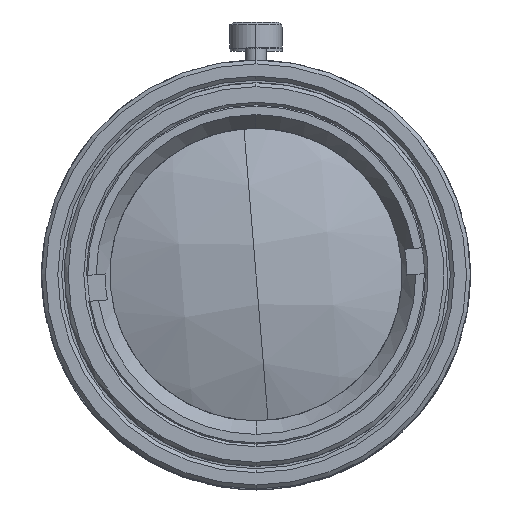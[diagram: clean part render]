
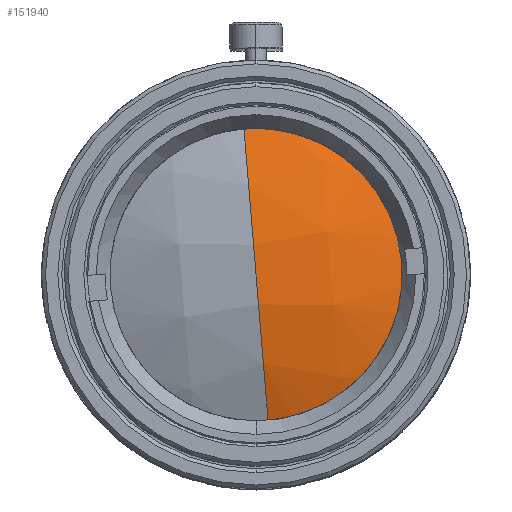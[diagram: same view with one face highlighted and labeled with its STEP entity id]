
A CAD part, top view. The second image highlights one B-rep face of the part: STEP entity #151940.
In plain terms, the highlighted spherical face has radius 29.237 mm.
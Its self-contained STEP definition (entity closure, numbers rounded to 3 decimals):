
#62670=CARTESIAN_POINT('',(11.212,-0.928,
-44.707));
#62680=VERTEX_POINT('',#62670);
#62710=CARTESIAN_POINT('',(0.,0.,
-44.707));
#62720=DIRECTION('',(0.,0.,-1.));
#62730=DIRECTION('',(0.997,0.074,
0.));
#62740=AXIS2_PLACEMENT_3D('',#62710,#62720,#62730);
#62750=CIRCLE('',#62740,11.25);
#62760=CARTESIAN_POINT('',(-0.928,-11.212,
-44.707));
#62770=VERTEX_POINT('',#62760);
#62780=EDGE_CURVE('',#62680,#62770,#62750,.T.);
#62850=CARTESIAN_POINT('',(0.,0.,
-17.722));
#62860=DIRECTION('',(0.997,-0.082,
0.));
#62870=DIRECTION('',(0.082,0.997,
0.));
#62880=AXIS2_PLACEMENT_3D('',#62850,#62860,#62870);
#62890=SPHERICAL_SURFACE('',#62880,29.237);
#62900=CARTESIAN_POINT('',(0.,0.,
-17.722));
#62910=DIRECTION('',(0.997,-0.082,
0.));
#62920=DIRECTION('',(-0.082,-0.997,0.));
#62930=AXIS2_PLACEMENT_3D('',#62900,#62910,#62920);
#62940=CIRCLE('',#62930,29.237);
#62950=CARTESIAN_POINT('',(0.928,11.212,
-44.707));
#62960=VERTEX_POINT('',#62950);
#62970=EDGE_CURVE('',#62770,#62960,#62940,.T.);
#146270=EDGE_CURVE('',#62960,#62680,#62750,.T.);
#151890=ORIENTED_EDGE('',*,*,#62780,.T.);
#151900=ORIENTED_EDGE('',*,*,#146270,.T.);
#151910=ORIENTED_EDGE('',*,*,#62970,.T.);
#151920=EDGE_LOOP('',(#151910,#151900,#151890));
#151930=FACE_OUTER_BOUND('',#151920,.T.);
#151940=ADVANCED_FACE('',(#151930),#62890,.T.);
